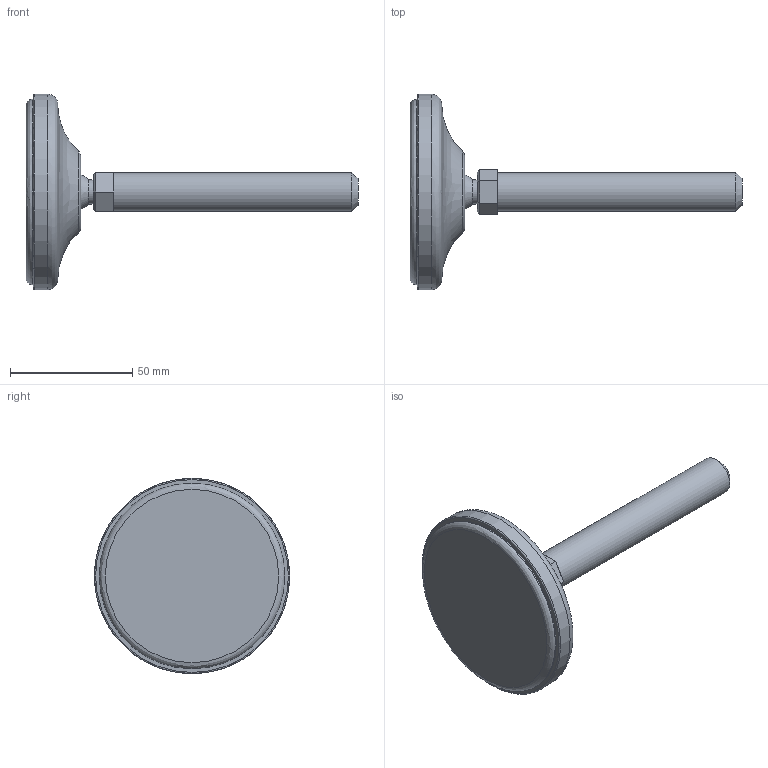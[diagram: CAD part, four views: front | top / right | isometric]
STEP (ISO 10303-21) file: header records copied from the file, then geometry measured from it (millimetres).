
FILE_DESCRIPTION(('STEP AP203'),'2;1');
FILE_NAME('10739.stp','2015-03-12T16:19:42',(''),(''),'2008.1.107','THINKDESIGN','');
FILE_SCHEMA(('CONFIG_CONTROL_DESIGN'));
Length unit declared in the file: millimetre
Bounding box: 136 x 80 x 80 mm (x, y, z)
Volume: 100047.1 mm3; surface area: 30217.7 mm2
Topology: 6 solids, 6 shells, 37 faces, 78 edges, 54 vertices
Faces by surface type: plane 19, bspline 13, cylinder 5
Full cylindrical faces by diameter (mm): 10 x1, 16 x1, 76 x2, 80 x1
Entity records: 1674 total; most frequent: CARTESIAN_POINT 782, DIRECTION 168, ORIENTED_EDGE 156, EDGE_CURVE 78, AXIS2_PLACEMENT_3D 66, VERTEX_POINT 54, CIRCLE 42, EDGE_LOOP 38
